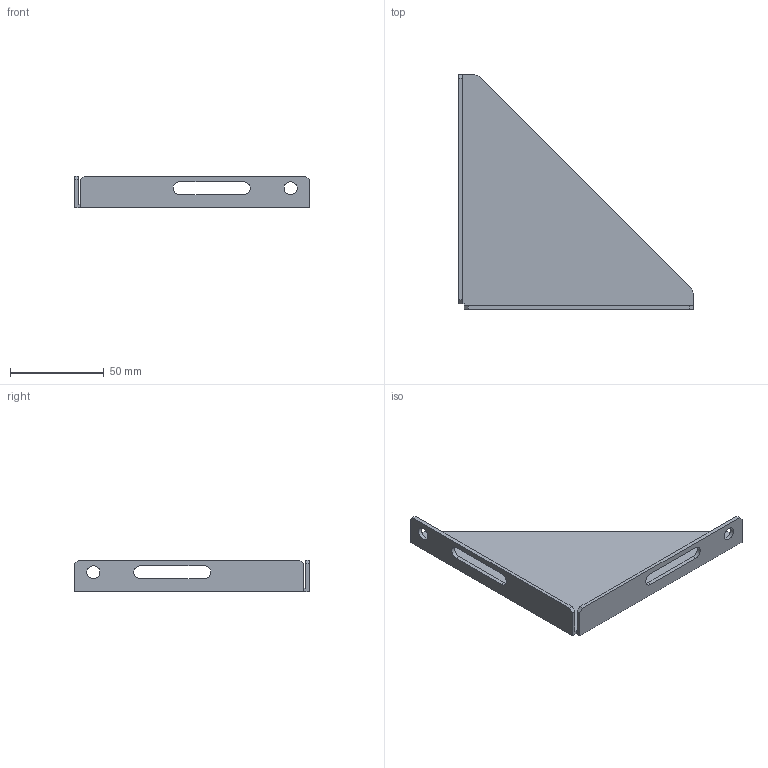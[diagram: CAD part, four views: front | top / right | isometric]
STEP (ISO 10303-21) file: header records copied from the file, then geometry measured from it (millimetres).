
FILE_DESCRIPTION (( 'STEP AP214' ), '1' );
FILE_NAME ('N20851.step', '2024-12-03T16:26:43', ( '' ), ( '' ), 'SwSTEP 2.0', 'SolidWorks 2023', '' );
FILE_SCHEMA (( 'AUTOMOTIVE_DESIGN' ));
Length unit declared in the file: millimetre
Products named in the file (1): N20851
Bounding box: 125 x 125 x 17 mm (x, y, z)
Volume: 24049 mm3; surface area: 25471.9 mm2
Topology: 1 solids, 1 shells, 29 faces, 82 edges, 55 vertices
Faces by surface type: plane 21, cylinder 8
Full cylindrical faces by diameter (mm): 7 x2
Entity records: 960 total; most frequent: CARTESIAN_POINT 163, ORIENTED_EDGE 158, DIRECTION 155, EDGE_CURVE 79, LINE 63, VECTOR 63, VERTEX_POINT 54, AXIS2_PLACEMENT_3D 46
